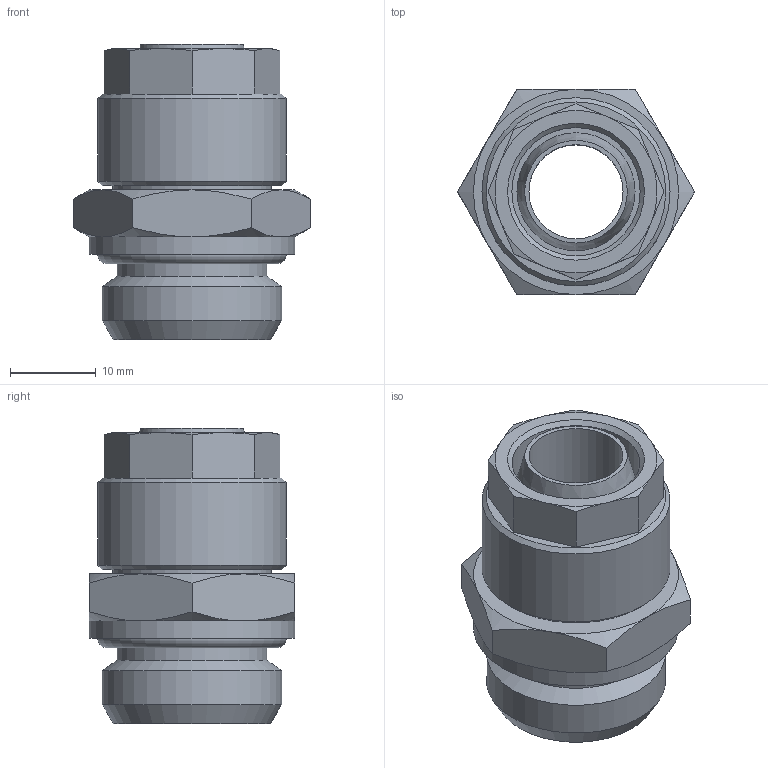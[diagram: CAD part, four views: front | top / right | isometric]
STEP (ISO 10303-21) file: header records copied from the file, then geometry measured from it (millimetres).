
FILE_DESCRIPTION(/* description */ (''),/* implementation_level */ '2;1');
FILE_NAME(/* name */ '10221_301Z_15125_12_15.09.15',/* time_stamp */ '2015-09-15T10:39:26+02:00',/* author */ (''),/* organization */ (''),/* preprocessor_version */ 'ST-DEVELOPER v14',/* originating_system */ 'HiCAD 2013 1802.4 Build 509',/* authorisation */ '');
FILE_SCHEMA (('AUTOMOTIVE_DESIGN { 1 0 10303 214 1 1 1 1 }'));
Length unit declared in the file: millimetre
Products named in the file (4): Root; OR 17.12X2.62; R10221; 17009
Assembly tree (3 placements, depth 2):
  Root
    OR 17.12X2.62
    R10221
    17009
Bounding box: 27.71 x 24 x 34.5 mm (x, y, z)
Volume: 8198 mm3; surface area: 7046.6 mm2
Topology: 3 solids, 3 shells, 72 faces, 158 edges, 97 vertices
Faces by surface type: cone 33, plane 24, cylinder 11, torus 4
Full cylindrical faces by diameter (mm): 11 x1, 13.1 x1, 14 x1, 15 x1, 17.5 x1, 18.5 x1, 18.733 x1, 20 x1, 20.955 x1, 22 x1, 24 x1
Entity records: 2999 total; most frequent: DIRECTION 368, CARTESIAN_POINT 279, PRESENTATION_STYLE_ASSIGNMENT 237, COLOUR_RGB 236, DRAUGHTING_PRE_DEFINED_CURVE_FONT 234, CURVE_STYLE 234, OVER_RIDING_STYLED_ITEM 234, ORIENTED_EDGE 234
